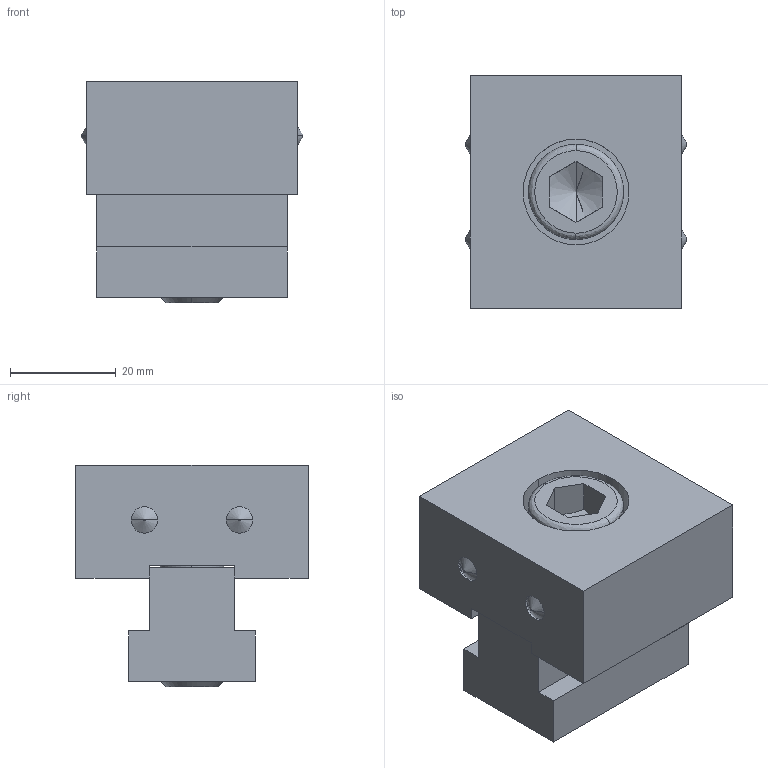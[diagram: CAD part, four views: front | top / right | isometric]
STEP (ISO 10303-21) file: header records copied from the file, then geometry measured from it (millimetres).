
FILE_DESCRIPTION (( 'STEP AP203' ), '1' );
FILE_NAME ('mr-s-g.STEP', '2021-10-26T02:18:06', ( '' ), ( '' ), 'SwSTEP 2.0', 'SolidWorks 2020', '' );
FILE_SCHEMA (( 'CONFIG_CONTROL_DESIGN' ));
Length unit declared in the file: millimetre
Products named in the file (1): mr-s-g
Bounding box: 42 x 44 x 42 mm (x, y, z)
Volume: 50078.3 mm3; surface area: 12538.1 mm2
Topology: 1 solids, 1 shells, 63 faces, 160 edges, 103 vertices
Faces by surface type: plane 33, cylinder 16, cone 12, bspline 2
Entity records: 2039 total; most frequent: CARTESIAN_POINT 415, DIRECTION 328, ORIENTED_EDGE 316, EDGE_CURVE 158, AXIS2_PLACEMENT_3D 116, VERTEX_POINT 103, LINE 96, VECTOR 96
